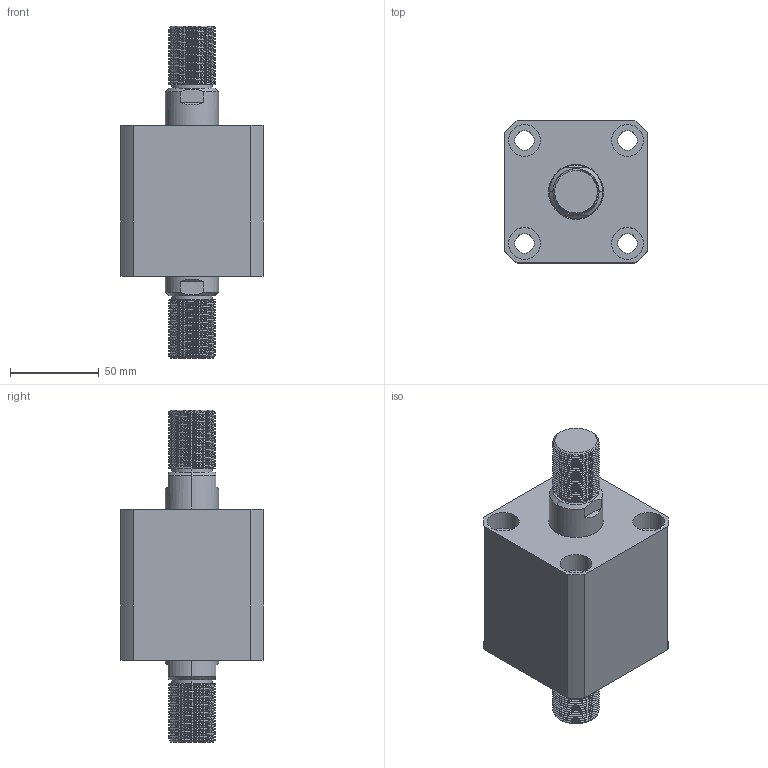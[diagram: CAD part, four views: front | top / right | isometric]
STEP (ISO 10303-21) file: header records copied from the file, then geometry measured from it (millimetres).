
FILE_DESCRIPTION (( 'STEP AP203' ), '1' );
FILE_NAME ('CHTB-SW50-10W.STEP', '2018-05-19T09:15:27', ( '' ), ( '' ), 'SwSTEP 2.0', 'SolidWorks 2015', '' );
FILE_SCHEMA (( 'CONFIG_CONTROL_DESIGN' ));
Length unit declared in the file: millimetre
Products named in the file (4): ヶ裔; 掛极SW50-10W; CHTB-SW50-10W; 活塞杆SW50-10W
Assembly tree (3 placements, depth 2):
  CHTB-SW50-10W
    掛极SW50-10W
    活塞杆SW50-10W
    ヶ裔
Bounding box: 80 x 80 x 187 mm (x, y, z)
Volume: 526137.4 mm3; surface area: 105946 mm2
Topology: 3 solids, 3 shells, 317 faces, 800 edges, 517 vertices
Faces by surface type: cylinder 203, plane 52, cone 30, torus 24, bspline 8
Entity records: 17425 total; most frequent: CARTESIAN_POINT 10037, ORIENTED_EDGE 1592, DIRECTION 1371, EDGE_CURVE 796, AXIS2_PLACEMENT_3D 553, VERTEX_POINT 517, EDGE_LOOP 365, ADVANCED_FACE 317
